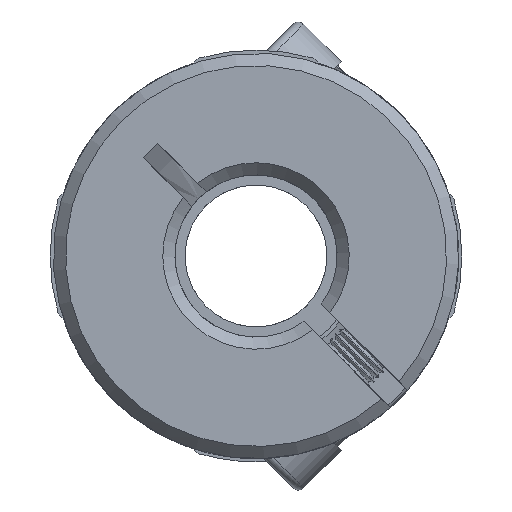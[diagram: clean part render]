
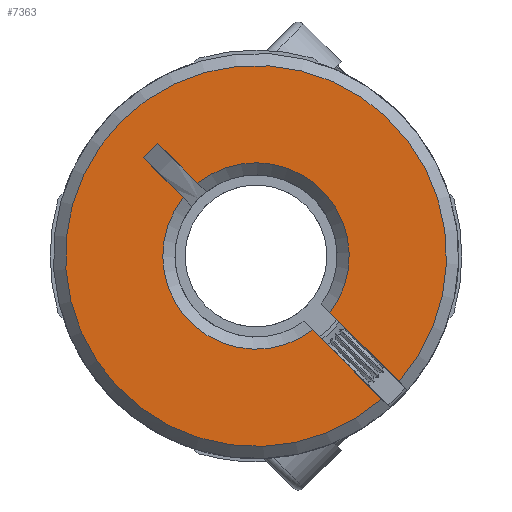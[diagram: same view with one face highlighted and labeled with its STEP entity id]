
A CAD part, front view. The second image highlights one B-rep face of the part: STEP entity #7363.
In plain terms, the highlighted planar face has unit normal (0, -1, 0).
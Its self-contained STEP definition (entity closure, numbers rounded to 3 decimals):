
#38 = LINE ( 'NONE', #9017, #12167 ) ;
#145 = DIRECTION ( 'NONE',  ( 0., -1., 0. ) ) ;
#417 = LINE ( 'NONE', #5374, #2181 ) ;
#609 = EDGE_CURVE ( 'NONE', #8745, #944, #7404, .T. ) ;
#659 = ORIENTED_EDGE ( 'NONE', *, *, #11802, .F. ) ;
#757 = DIRECTION ( 'NONE',  ( -0.707, 0., 0.707 ) ) ;
#944 = VERTEX_POINT ( 'NONE', #8010 ) ;
#1331 = LINE ( 'NONE', #9203, #4353 ) ;
#1381 = CARTESIAN_POINT ( 'NONE',  ( 2.372, -12.6, -3.221 ) ) ;
#1398 = CIRCLE ( 'NONE', #11034, 4.6 ) ;
#1545 = PLANE ( 'NONE',  #5845 ) ;
#1630 = EDGE_CURVE ( 'NONE', #10935, #10243, #417, .T. ) ;
#1731 = CARTESIAN_POINT ( 'NONE',  ( 2.801, -12.6, -3.649 ) ) ;
#2115 = LINE ( 'NONE', #12704, #8568 ) ;
#2181 = VECTOR ( 'NONE', #9368, 1000. ) ;
#2249 = CARTESIAN_POINT ( 'NONE',  ( 0., -12.6, 0. ) ) ;
#3331 = DIRECTION ( 'NONE',  ( 0., 1., 0. ) ) ;
#3465 = CARTESIAN_POINT ( 'NONE',  ( -4.842, -12.6, 5.549 ) ) ;
#3503 = VERTEX_POINT ( 'NONE', #3465 ) ;
#3910 = EDGE_CURVE ( 'NONE', #3503, #10656, #1331, .T. ) ;
#4135 = ORIENTED_EDGE ( 'NONE', *, *, #3910, .T. ) ;
#4353 = VECTOR ( 'NONE', #8336, 1000. ) ;
#4552 = EDGE_CURVE ( 'NONE', #5684, #9961, #2115, .T. ) ;
#4629 = ORIENTED_EDGE ( 'NONE', *, *, #12332, .T. ) ;
#5301 = AXIS2_PLACEMENT_3D ( 'NONE', #9354, #3331, #9528 ) ;
#5374 = CARTESIAN_POINT ( 'NONE',  ( 4.95, -12.6, -5.657 ) ) ;
#5684 = VERTEX_POINT ( 'NONE', #6957 ) ;
#5845 = AXIS2_PLACEMENT_3D ( 'NONE', #7546, #10600, #12533 ) ;
#6567 = CARTESIAN_POINT ( 'NONE',  ( -5.549, -12.6, 4.842 ) ) ;
#6642 = CARTESIAN_POINT ( 'NONE',  ( 0., -12.6, 0. ) ) ;
#6957 = CARTESIAN_POINT ( 'NONE',  ( 7.058, -12.6, -6.209 ) ) ;
#7055 = DIRECTION ( 'NONE',  ( -0.707, 0., -0.707 ) ) ;
#7363 = ADVANCED_FACE ( 'NONE', ( #10698 ), #1545, .F. ) ;
#7404 = LINE ( 'NONE', #1381, #11462 ) ;
#7546 = CARTESIAN_POINT ( 'NONE',  ( 342.528, -12.6, 364.579 ) ) ;
#7882 = EDGE_CURVE ( 'NONE', #8745, #10243, #1398, .T. ) ;
#7921 = EDGE_LOOP ( 'NONE', ( #4135, #4629, #11636, #9611, #9621, #12394, #8530, #659 ) ) ;
#8010 = CARTESIAN_POINT ( 'NONE',  ( 6.209, -12.6, -7.058 ) ) ;
#8068 = EDGE_CURVE ( 'NONE', #5684, #944, #10684, .T. ) ;
#8220 = CARTESIAN_POINT ( 'NONE',  ( 3.649, -12.6, -2.801 ) ) ;
#8336 = DIRECTION ( 'NONE',  ( 0.707, 0., -0.707 ) ) ;
#8530 = ORIENTED_EDGE ( 'NONE', *, *, #1630, .F. ) ;
#8568 = VECTOR ( 'NONE', #757, 1000. ) ;
#8575 = DIRECTION ( 'NONE',  ( 0., 1., 0. ) ) ;
#8617 = DIRECTION ( 'NONE',  ( 0.707, 0., -0.707 ) ) ;
#8745 = VERTEX_POINT ( 'NONE', #1731 ) ;
#9017 = CARTESIAN_POINT ( 'NONE',  ( -4.842, -12.6, 5.549 ) ) ;
#9203 = CARTESIAN_POINT ( 'NONE',  ( 5.657, -12.6, -4.95 ) ) ;
#9354 = CARTESIAN_POINT ( 'NONE',  ( 0., -12.6, 0. ) ) ;
#9368 = DIRECTION ( 'NONE',  ( 0.707, 0., -0.707 ) ) ;
#9528 = DIRECTION ( 'NONE',  ( 0.707, 0., -0.707 ) ) ;
#9611 = ORIENTED_EDGE ( 'NONE', *, *, #8068, .T. ) ;
#9621 = ORIENTED_EDGE ( 'NONE', *, *, #609, .F. ) ;
#9961 = VERTEX_POINT ( 'NONE', #8220 ) ;
#10125 = DIRECTION ( 'NONE',  ( 0.707, 0., -0.707 ) ) ;
#10129 = AXIS2_PLACEMENT_3D ( 'NONE', #2249, #145, #10125 ) ;
#10159 = CARTESIAN_POINT ( 'NONE',  ( -2.88, -12.6, 3.587 ) ) ;
#10243 = VERTEX_POINT ( 'NONE', #12780 ) ;
#10450 = DIRECTION ( 'NONE',  ( 0.707, 0., -0.707 ) ) ;
#10600 = DIRECTION ( 'NONE',  ( 0., 1., 0. ) ) ;
#10656 = VERTEX_POINT ( 'NONE', #10159 ) ;
#10684 = CIRCLE ( 'NONE', #10129, 9.4 ) ;
#10698 = FACE_OUTER_BOUND ( 'NONE', #7921, .T. ) ;
#10910 = CIRCLE ( 'NONE', #5301, 4.6 ) ;
#10935 = VERTEX_POINT ( 'NONE', #6567 ) ;
#11034 = AXIS2_PLACEMENT_3D ( 'NONE', #6642, #8575, #8617 ) ;
#11462 = VECTOR ( 'NONE', #10450, 1000. ) ;
#11636 = ORIENTED_EDGE ( 'NONE', *, *, #4552, .F. ) ;
#11802 = EDGE_CURVE ( 'NONE', #3503, #10935, #38, .T. ) ;
#12167 = VECTOR ( 'NONE', #7055, 1000. ) ;
#12332 = EDGE_CURVE ( 'NONE', #10656, #9961, #10910, .T. ) ;
#12394 = ORIENTED_EDGE ( 'NONE', *, *, #7882, .T. ) ;
#12533 = DIRECTION ( 'NONE',  ( 0.707, 0., -0.707 ) ) ;
#12704 = CARTESIAN_POINT ( 'NONE',  ( 3.221, -12.6, -2.372 ) ) ;
#12780 = CARTESIAN_POINT ( 'NONE',  ( -3.587, -12.6, 2.88 ) ) ;
